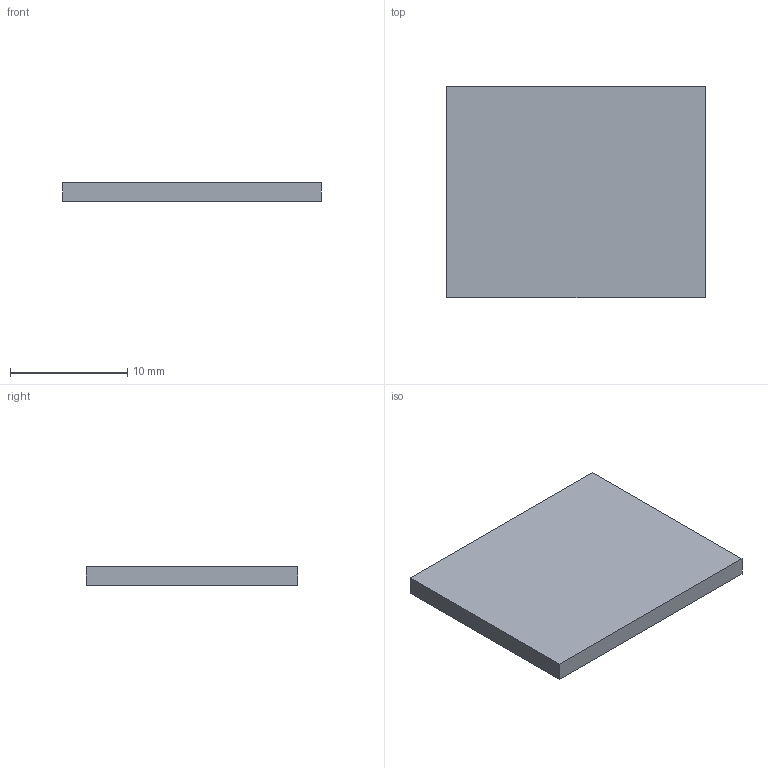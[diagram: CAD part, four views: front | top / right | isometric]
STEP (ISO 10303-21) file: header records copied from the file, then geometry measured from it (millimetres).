
FILE_DESCRIPTION(('Open CASCADE Model'),'2;1');
FILE_NAME('Open CASCADE Shape Model','2026-10-01T12:35:22',('Author'),( 'Open CASCADE'),'Open CASCADE STEP processor 7.8','Open CASCADE 7.8' ,'Unknown');
FILE_SCHEMA(('AUTOMOTIVE_DESIGN { 1 0 10303 214 1 1 1 1 }'));
Length unit declared in the file: millimetre
Products named in the file (2): E11_USBC_MD0840_provisional; E11_USBC_MD0840_provisional_solid
Assembly tree (1 placements, depth 2):
  E11_USBC_MD0840_provisional
    E11_USBC_MD0840_provisional_solid
Bounding box: 22 x 18 x 1.6 mm (x, y, z)
Volume: 633.6 mm3; surface area: 920 mm2
Topology: 1 solids, 1 shells, 6 faces, 12 edges, 8 vertices
Faces by surface type: plane 6
Entity records: 349 total; most frequent: CARTESIAN_POINT 52, DIRECTION 52, LINE 36, VECTOR 36, ORIENTED_EDGE 24, PCURVE 24, DEFINITIONAL_REPRESENTATION 24, EDGE_CURVE 12
